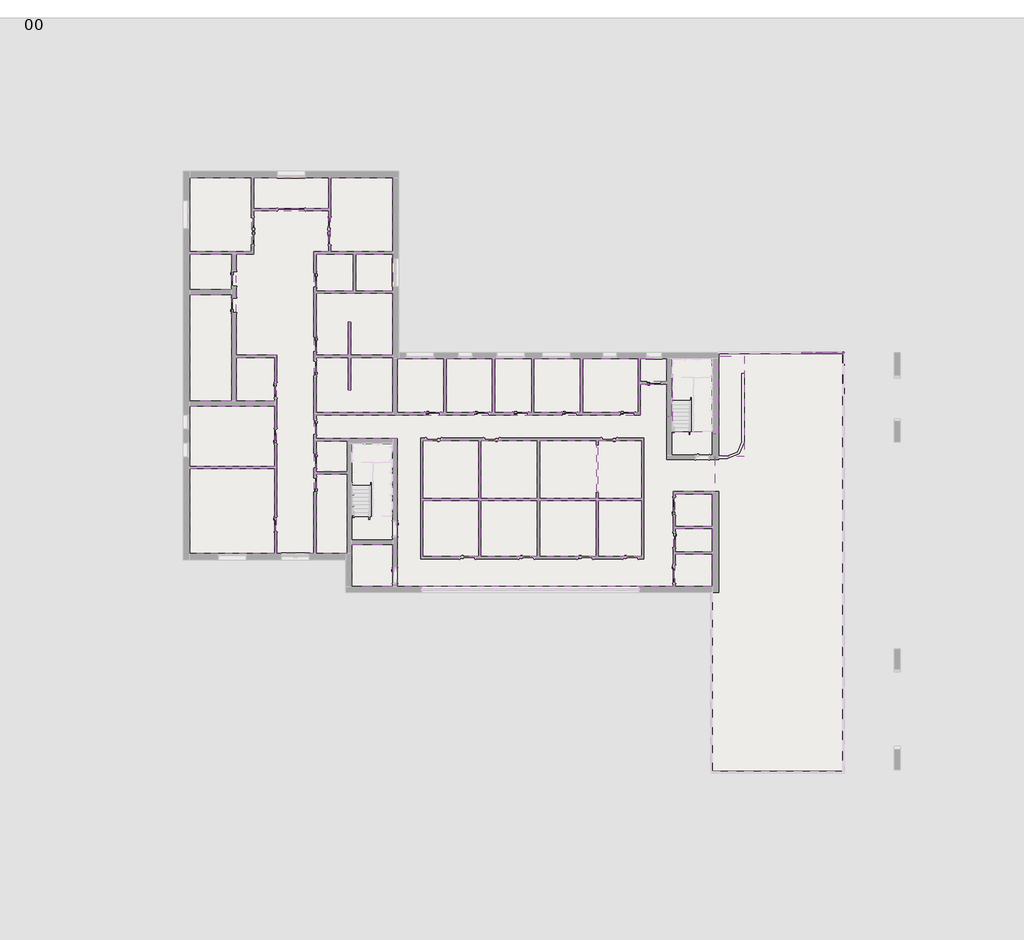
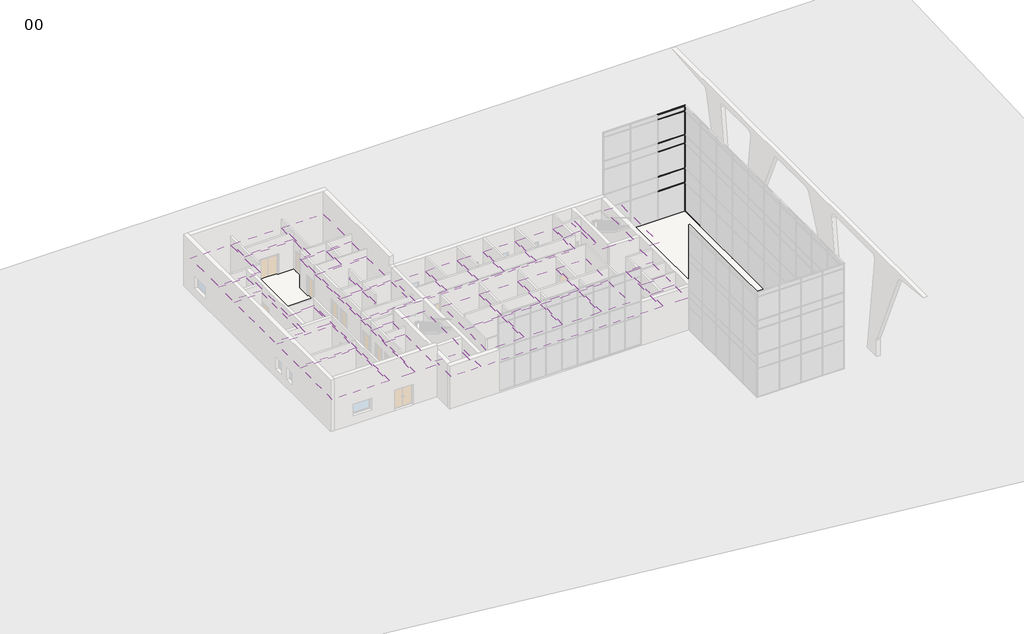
# One storey, part 8 of 11: 36 coverings, 21 members, 8 footings, 4 proxies, 1 slab.
"""IFC4 building model written with IfcOpenShell, lengths in millimetres."""

from ifc_helpers import new_model, si_unit, frame, origin, place, context, project, spatial, polyline, outline, extrude, faceted_brep, transform, mapped, element, save
from components import support_circular_support_bend_943144f1, rectangular_mullion_curtainwallmullion_rectangular_generic_15c16c91, rectangular_mullion_curtainwallmullion_rectangular_generic_83e55909, rectangular_mullion_curtainwallmullion_rectangular_generic_397fb318, rectangular_mullion_curtainwallmullion_rectangular_generic_0a5b04f7, rectangular_mullion_curtainwallmullion_rectangular_generic_0800385b, rectangular_mullion_curtainwallmullion_rectangular_generic_2e425acd, rectangular_mullion_curtainwallmullion_rectangular_generic_e7c47ca9, rectangular_mullion_curtainwallmullion_rectangular_generic_3bdb59d8, rectangular_mullion_curtainwallmullion_rectangular_generic_afb0b622, rectangular_mullion_curtainwallmullion_rectangular_generic_d47b8a9d

model = new_model("IFC4")

# Units and contexts
model_context = context("Model", 3, world=origin())
ifc_project = project(units=[si_unit("LENGTHUNIT", "METRE", prefix="MILLI")], contexts=[model_context])

# Site, building, storey
site = spatial("IfcSite", under=ifc_project)
building = spatial("IfcBuilding", under=site)
storey = spatial("IfcBuildingStorey", under=building, Name="00", Elevation=0.0)

# Proxies
placement = place(None, origin())
support_circular_support_bend_shape = support_circular_support_bend_943144f1(model_context)
element("IfcBuildingElementProxy", 1, Name="Support_ Circular : Support_Bend", ObjectType="Support_ Circular : Support_Bend", at=placement, inside=storey, context=model_context, shape_type="MappedRepresentation", body=[
    mapped(support_circular_support_bend_shape, transform((422426.7206883, -391834.0026386, 1050.0), x_axis=(1.0, 0.0, 0.0), y_axis=(0.0, 1.0, 0.0), z_axis=(0.0, 0.0, 1.0))),
])
element("IfcBuildingElementProxy", 2, Name="Support_ Circular : Support_Bend", ObjectType="Support_ Circular : Support_Bend", at=placement, inside=storey, context=model_context, shape_type="MappedRepresentation", body=[
    mapped(support_circular_support_bend_shape, transform((422506.7206883, -391150.1319314, 1384.3224243), x_axis=(0.0, 1.0, 0.0), y_axis=(-1.0, 0.0, 0.0), z_axis=(0.0, 0.0, 1.0))),
])
element("IfcBuildingElementProxy", 3, Name="Support_ Circular : Support_Bend", ObjectType="Support_ Circular : Support_Bend", at=placement, inside=storey, context=model_context, shape_type="MappedRepresentation", body=[
    mapped(support_circular_support_bend_shape, transform((422506.7206883, -390406.2122145, 1830.6742544), x_axis=(0.0, 1.0, 0.0), y_axis=(-1.0, 0.0, 0.0), z_axis=(0.0, 0.0, 1.0))),
])
element("IfcBuildingElementProxy", 4, Name="Support_ Circular : Support_Bend", ObjectType="Support_ Circular : Support_Bend", at=placement, inside=storey, context=model_context, shape_type="MappedRepresentation", body=[
    mapped(support_circular_support_bend_shape, transform((422426.7206883, -391834.0026386, 1050.0), x_axis=(1.0, 0.0, 0.0), y_axis=(0.0, 1.0, 0.0), z_axis=(0.0, 0.0, 1.0))),
])

# Coverings
element("IfcCovering", 5, ObjectType="Ceiling_CompoundGeneric", at=placement, inside=storey, context=model_context, shape_type="SweptSolid", body=[
    extrude(outline(polyline([(443102.3206883, -385283.1646258), (443102.3206883, -383693.3886483), (443122.3206883, -383693.3886483), (443122.3206883, -386275.0026386), (445738.3206883, -386275.0026386), (445738.3206883, -386408.0026386), (446140.3206883, -386408.0026386), (446140.3206883, -381395.0026386), (447790.3206883, -381395.0026386), (447790.3206883, -387908.0026386), (445893.3206883, -387908.0026386), (445893.3206883, -390178.0026386), (443188.3206883, -390178.0026386), (443188.3206883, -396328.0026386), (425322.3206883, -396328.0026386), (425322.3206883, -386739.0026386), (422221.3206883, -386739.0026386), (420062.3206883, -386739.0026386), (420062.3206883, -385199.0026386), (425167.3206883, -385199.0026386), (441072.3206883, -385199.0026386), (441072.3206883, -383200.0026386), (442792.3206883, -383200.0026386), (442792.3206883, -385283.1646258), (443102.3206883, -385283.1646258)]), holes=[polyline([(426822.3206883, -394544.0026386), (441292.3206883, -394544.0026386), (441292.3206883, -386699.0026386), (426822.3206883, -386699.0026386), (426822.3206883, -394544.0026386)])]), frame((0.0, 0.0, 3000.0), z_axis=(0.0, 0.0, 1.0), x_axis=(1.0, 0.0, 0.0)), (0.0, 0.0, 1.0), 52.0),
])
element("IfcCovering", 6, ObjectType="Ceiling_CompoundGeneric", at=placement, inside=storey, context=model_context, shape_type="SweptSolid", body=[
    extrude(outline(polyline([(411860.3206883, -374614.0026386), (411860.3206883, -369815.0026386), (415860.3206883, -369815.0026386), (415860.3206883, -374614.0026386), (411860.3206883, -374614.0026386)])), frame((0.0, 0.0, 3000.0), z_axis=(0.0, 0.0, 1.0), x_axis=(1.0, 0.0, 0.0)), (0.0, 0.0, 1.0), 52.0),
])
element("IfcCovering", 7, ObjectType="Ceiling_CompoundGeneric", at=placement, inside=storey, context=model_context, shape_type="SweptSolid", body=[
    extrude(outline(polyline([(416010.3206883, -369815.0026386), (420862.3206883, -369815.0026386), (420862.3206883, -371815.0026386), (416010.3206883, -371815.0026386), (416010.3206883, -369815.0026386)])), frame((0.0, 0.0, 3000.0), z_axis=(0.0, 0.0, 1.0), x_axis=(1.0, 0.0, 0.0)), (0.0, 0.0, 1.0), 52.0),
])
element("IfcCovering", 8, ObjectType="Ceiling_CompoundGeneric", at=placement, inside=storey, context=model_context, shape_type="SweptSolid", body=[
    extrude(outline(polyline([(421012.3206883, -369815.0026386), (425012.3206883, -369815.0026386), (425012.3206883, -374614.0026386), (421012.3206883, -374614.0026386), (421012.3206883, -369815.0026386)])), frame((0.0, 0.0, 3000.0), z_axis=(0.0, 0.0, 1.0), x_axis=(1.0, 0.0, 0.0)), (0.0, 0.0, 1.0), 52.0),
])
element("IfcCovering", 9, ObjectType="Ceiling_CompoundGeneric", at=placement, inside=storey, context=model_context, shape_type="SweptSolid", body=[
    extrude(outline(polyline([(425012.3206883, -374764.0026386), (425012.3206883, -377164.0026386), (422612.3206883, -377164.0026386), (422612.3206883, -374764.0026386), (425012.3206883, -374764.0026386)])), frame((0.0, 0.0, 3000.0), z_axis=(0.0, 0.0, 1.0), x_axis=(1.0, 0.0, 0.0)), (0.0, 0.0, 1.0), 52.0),
])
element("IfcCovering", 10, ObjectType="Ceiling_CompoundGeneric", at=placement, inside=storey, context=model_context, shape_type="SweptSolid", body=[
    extrude(outline(polyline([(422462.3206883, -377164.0026386), (420062.3206883, -377164.0026386), (420062.3206883, -374764.0026386), (422462.3206883, -374764.0026386), (422462.3206883, -377164.0026386)])), frame((0.0, 0.0, 3000.0), z_axis=(0.0, 0.0, 1.0), x_axis=(1.0, 0.0, 0.0)), (0.0, 0.0, 1.0), 52.0),
])
element("IfcCovering", 11, ObjectType="Ceiling_CompoundGeneric", at=placement, inside=storey, context=model_context, shape_type="SweptSolid", body=[
    extrude(outline(polyline([(425012.3206883, -377314.0026386), (425012.3206883, -381320.0026386), (422296.3206883, -381320.0026386), (422296.3206883, -379195.0026386), (422146.3206883, -379195.0026386), (422146.3206883, -381320.0026386), (420062.3206883, -381320.0026386), (420062.3206883, -377314.0026386), (425012.3206883, -377314.0026386)])), frame((0.0, 0.0, 3000.0), z_axis=(0.0, 0.0, 1.0), x_axis=(1.0, 0.0, 0.0)), (0.0, 0.0, 1.0), 52.0),
])
element("IfcCovering", 12, ObjectType="Ceiling_CompoundGeneric", at=placement, inside=storey, context=model_context, shape_type="SweptSolid", body=[
    extrude(outline(polyline([(425012.3206883, -381470.0026386), (425012.3206883, -385049.0026386), (420062.3206883, -385049.0026386), (420062.3206883, -381470.0026386), (422146.3206883, -381470.0026386), (422146.3206883, -383595.0026386), (422296.3206883, -383595.0026386), (422296.3206883, -381470.0026386), (425012.3206883, -381470.0026386)])), frame((0.0, 0.0, 3000.0), z_axis=(0.0, 0.0, 1.0), x_axis=(1.0, 0.0, 0.0)), (0.0, 0.0, 1.0), 52.0),
])
element("IfcCovering", 13, ObjectType="Ceiling_CompoundGeneric", at=placement, inside=storey, context=model_context, shape_type="SweptSolid", body=[
    extrude(outline(polyline([(420062.3206883, -386889.0026386), (422066.3206883, -386889.0026386), (422066.3206883, -388889.0026386), (420062.3206883, -388889.0026386), (420062.3206883, -386889.0026386)])), frame((0.0, 0.0, 3000.0), z_axis=(0.0, 0.0, 1.0), x_axis=(1.0, 0.0, 0.0)), (0.0, 0.0, 1.0), 52.0),
])
element("IfcCovering", 14, ObjectType="Ceiling_CompoundGeneric", at=placement, inside=storey, context=model_context, shape_type="SweptSolid", body=[
    extrude(outline(polyline([(422066.3206883, -394194.0026386), (420062.3206883, -394194.0026386), (420062.3206883, -389039.0026386), (422066.3206883, -389039.0026386), (422066.3206883, -394194.0026386)])), frame((0.0, 0.0, 3000.0), z_axis=(0.0, 0.0, 1.0), x_axis=(1.0, 0.0, 0.0)), (0.0, 0.0, 1.0), 52.0),
])
element("IfcCovering", 15, ObjectType="Ceiling_CompoundGeneric", at=placement, inside=storey, context=model_context, shape_type="SweptSolid", body=[
    extrude(outline(polyline([(411860.3206883, -394194.0026386), (411860.3206883, -388694.0026386), (417360.3206883, -388694.0026386), (417360.3206883, -394194.0026386), (411860.3206883, -394194.0026386)])), frame((0.0, 0.0, 3000.0), z_axis=(0.0, 0.0, 1.0), x_axis=(1.0, 0.0, 0.0)), (0.0, 0.0, 1.0), 52.0),
])
element("IfcCovering", 16, ObjectType="Ceiling_CompoundGeneric", at=placement, inside=storey, context=model_context, shape_type="SweptSolid", body=[
    extrude(outline(polyline([(411860.3206883, -388544.0026386), (411860.3206883, -384624.0026386), (417360.3206883, -384624.0026386), (417360.3206883, -388544.0026386), (411860.3206883, -388544.0026386)])), frame((0.0, 0.0, 3000.0), z_axis=(0.0, 0.0, 1.0), x_axis=(1.0, 0.0, 0.0)), (0.0, 0.0, 1.0), 52.0),
])
element("IfcCovering", 17, ObjectType="Ceiling_CompoundGeneric", at=placement, inside=storey, context=model_context, shape_type="SweptSolid", body=[
    extrude(outline(polyline([(411860.3206883, -384314.0026386), (411860.3206883, -377394.0026386), (414580.3206883, -377394.0026386), (414580.3206883, -384314.0026386), (411860.3206883, -384314.0026386)])), frame((0.0, 0.0, 3000.0), z_axis=(0.0, 0.0, 1.0), x_axis=(1.0, 0.0, 0.0)), (0.0, 0.0, 1.0), 52.0),
])
element("IfcCovering", 18, ObjectType="Ceiling_CompoundGeneric", at=placement, inside=storey, context=model_context, shape_type="SweptSolid", body=[
    extrude(outline(polyline([(414890.3206883, -381470.0026386), (417360.3206883, -381470.0026386), (417360.3206883, -384314.0026386), (414890.3206883, -384314.0026386), (414890.3206883, -381470.0026386)])), frame((0.0, 0.0, 3000.0), z_axis=(0.0, 0.0, 1.0), x_axis=(1.0, 0.0, 0.0)), (0.0, 0.0, 1.0), 52.0),
])
element("IfcCovering", 19, ObjectType="Ceiling_CompoundGeneric", at=placement, inside=storey, context=model_context, shape_type="SweptSolid", body=[
    extrude(outline(polyline([(414580.3206883, -377084.0026386), (411860.3206883, -377084.0026386), (411860.3206883, -374764.0026386), (414580.3206883, -374764.0026386), (414580.3206883, -377084.0026386)])), frame((0.0, 0.0, 3000.0), z_axis=(0.0, 0.0, 1.0), x_axis=(1.0, 0.0, 0.0)), (0.0, 0.0, 1.0), 52.0),
])
element("IfcCovering", 20, ObjectType="Ceiling_CompoundGeneric", at=placement, inside=storey, context=model_context, shape_type="SweptSolid", body=[
    extrude(outline(polyline([(411860.3206883, -374614.0026386), (411860.3206883, -369815.0026386), (415860.3206883, -369815.0026386), (415860.3206883, -374614.0026386), (411860.3206883, -374614.0026386)])), frame((0.0, 0.0, 3000.0), z_axis=(0.0, 0.0, 1.0), x_axis=(1.0, 0.0, 0.0)), (0.0, 0.0, 1.0), 52.0),
])
element("IfcCovering", 21, ObjectType="Ceiling_CompoundGeneric", at=placement, inside=storey, context=model_context, shape_type="SweptSolid", body=[
    extrude(outline(polyline([(419912.3206883, -386814.0026386), (419912.3206883, -394194.0026386), (417510.3206883, -394194.0026386), (417510.3206883, -381320.0026386), (414890.3206883, -381320.0026386), (414890.3206883, -374764.0026386), (416010.3206883, -374764.0026386), (416010.3206883, -371965.0026386), (420862.3206883, -371965.0026386), (420862.3206883, -374614.0026386), (419912.3206883, -374614.0026386), (419912.3206883, -377239.0026386), (419912.3206883, -385124.0026386), (419912.3206883, -386814.0026386)])), frame((0.0, 0.0, 3000.0), z_axis=(0.0, 0.0, 1.0), x_axis=(1.0, 0.0, 0.0)), (0.0, 0.0, 1.0), 52.0),
])
element("IfcCovering", 22, ObjectType="Ceiling_CompoundGeneric", at=placement, inside=storey, context=model_context, shape_type="SweptSolid", body=[
    extrude(outline(polyline([(425012.3206883, -396328.0026386), (422376.3206883, -396328.0026386), (422376.3206883, -394395.0026386), (422376.3206883, -393609.0026386), (425012.3206883, -393609.0026386), (425012.3206883, -396328.0026386)])), frame((0.0, 0.0, 3000.0), z_axis=(0.0, 0.0, 1.0), x_axis=(1.0, 0.0, 0.0)), (0.0, 0.0, 1.0), 52.0),
])
element("IfcCovering", 23, ObjectType="Ceiling_CompoundGeneric", at=placement, inside=storey, context=model_context, shape_type="SweptSolid", body=[
    extrude(outline(polyline([(426972.3206883, -394394.0026386), (426972.3206883, -390768.0026386), (430578.3206883, -390768.0026386), (430578.3206883, -394394.0026386), (426972.3206883, -394394.0026386)])), frame((0.0, 0.0, 3000.0), z_axis=(0.0, 0.0, 1.0), x_axis=(1.0, 0.0, 0.0)), (0.0, 0.0, 1.0), 52.0),
])
element("IfcCovering", 24, ObjectType="Ceiling_CompoundGeneric", at=placement, inside=storey, context=model_context, shape_type="SweptSolid", body=[
    extrude(outline(polyline([(434388.3206883, -394394.0026386), (430728.3206883, -394394.0026386), (430728.3206883, -390768.0026386), (434388.3206883, -390768.0026386), (434388.3206883, -394394.0026386)])), frame((0.0, 0.0, 3000.0), z_axis=(0.0, 0.0, 1.0), x_axis=(1.0, 0.0, 0.0)), (0.0, 0.0, 1.0), 52.0),
])
element("IfcCovering", 25, ObjectType="Ceiling_CompoundGeneric", at=placement, inside=storey, context=model_context, shape_type="SweptSolid", body=[
    extrude(outline(polyline([(438198.3206883, -394394.0026386), (434538.3206883, -394394.0026386), (434538.3206883, -390768.0026386), (438198.3206883, -390768.0026386), (438198.3206883, -394394.0026386)])), frame((0.0, 0.0, 3000.0), z_axis=(0.0, 0.0, 1.0), x_axis=(1.0, 0.0, 0.0)), (0.0, 0.0, 1.0), 52.0),
])
element("IfcCovering", 26, ObjectType="Ceiling_CompoundGeneric", at=placement, inside=storey, context=model_context, shape_type="SweptSolid", body=[
    extrude(outline(polyline([(441142.3206883, -394394.0026386), (438348.3206883, -394394.0026386), (438348.3206883, -390768.0026386), (441142.3206883, -390768.0026386), (441142.3206883, -394394.0026386)])), frame((0.0, 0.0, 3000.0), z_axis=(0.0, 0.0, 1.0), x_axis=(1.0, 0.0, 0.0)), (0.0, 0.0, 1.0), 52.0),
])
element("IfcCovering", 27, ObjectType="Ceiling_CompoundGeneric", at=placement, inside=storey, context=model_context, shape_type="SweptSolid", body=[
    extrude(outline(polyline([(438348.3206883, -390618.0026386), (438348.3206883, -386849.0026386), (441142.3206883, -386849.0026386), (441142.3206883, -390618.0026386), (438348.3206883, -390618.0026386)])), frame((0.0, 0.0, 3000.0), z_axis=(0.0, 0.0, 1.0), x_axis=(1.0, 0.0, 0.0)), (0.0, 0.0, 1.0), 52.0),
])
element("IfcCovering", 28, ObjectType="Ceiling_CompoundGeneric", at=placement, inside=storey, context=model_context, shape_type="SweptSolid", body=[
    extrude(outline(polyline([(434538.3206883, -390618.0026386), (434538.3206883, -386849.0026386), (438198.3206883, -386849.0026386), (438198.3206883, -390618.0026386), (434538.3206883, -390618.0026386)])), frame((0.0, 0.0, 3000.0), z_axis=(0.0, 0.0, 1.0), x_axis=(1.0, 0.0, 0.0)), (0.0, 0.0, 1.0), 52.0),
])
element("IfcCovering", 29, ObjectType="Ceiling_CompoundGeneric", at=placement, inside=storey, context=model_context, shape_type="SweptSolid", body=[
    extrude(outline(polyline([(430728.3206883, -390618.0026386), (430728.3206883, -386849.0026386), (434388.3206883, -386849.0026386), (434388.3206883, -390618.0026386), (430728.3206883, -390618.0026386)])), frame((0.0, 0.0, 3000.0), z_axis=(0.0, 0.0, 1.0), x_axis=(1.0, 0.0, 0.0)), (0.0, 0.0, 1.0), 52.0),
])
element("IfcCovering", 30, ObjectType="Ceiling_CompoundGeneric", at=placement, inside=storey, context=model_context, shape_type="SweptSolid", body=[
    extrude(outline(polyline([(426972.3206883, -386849.0026386), (430578.3206883, -386849.0026386), (430578.3206883, -390618.0026386), (426972.3206883, -390618.0026386), (426972.3206883, -386849.0026386)])), frame((0.0, 0.0, 3000.0), z_axis=(0.0, 0.0, 1.0), x_axis=(1.0, 0.0, 0.0)), (0.0, 0.0, 1.0), 52.0),
])
element("IfcCovering", 31, ObjectType="Ceiling_CompoundGeneric", at=placement, inside=storey, context=model_context, shape_type="SweptSolid", body=[
    extrude(outline(polyline([(445738.3206883, -394228.0026386), (445738.3206883, -396328.0026386), (443338.3206883, -396328.0026386), (443338.3206883, -394228.0026386), (445738.3206883, -394228.0026386)])), frame((0.0, 0.0, 3000.0), z_axis=(0.0, 0.0, 1.0), x_axis=(1.0, 0.0, 0.0)), (0.0, 0.0, 1.0), 52.0),
])
element("IfcCovering", 32, ObjectType="Ceiling_CompoundGeneric", at=placement, inside=storey, context=model_context, shape_type="SweptSolid", body=[
    extrude(outline(polyline([(445738.3206883, -392578.0026386), (445738.3206883, -394078.0026386), (443338.3206883, -394078.0026386), (443338.3206883, -392578.0026386), (445738.3206883, -392578.0026386)])), frame((0.0, 0.0, 3000.0), z_axis=(0.0, 0.0, 1.0), x_axis=(1.0, 0.0, 0.0)), (0.0, 0.0, 1.0), 52.0),
])
element("IfcCovering", 33, ObjectType="Ceiling_CompoundGeneric", at=placement, inside=storey, context=model_context, shape_type="SweptSolid", body=[
    extrude(outline(polyline([(445738.3206883, -390328.0026386), (445738.3206883, -392428.0026386), (443338.3206883, -392428.0026386), (443338.3206883, -390328.0026386), (445738.3206883, -390328.0026386)])), frame((0.0, 0.0, 3000.0), z_axis=(0.0, 0.0, 1.0), x_axis=(1.0, 0.0, 0.0)), (0.0, 0.0, 1.0), 52.0),
])
element("IfcCovering", 34, ObjectType="Ceiling_CompoundGeneric", at=placement, inside=storey, context=model_context, shape_type="SweptSolid", body=[
    extrude(outline(polyline([(443102.3206883, -383550.0026386), (443102.3206883, -381550.0026386), (443122.3206883, -381550.0026386), (443122.3206883, -383550.0026386), (443102.3206883, -383550.0026386)])), frame((0.0, 0.0, 3000.0), z_axis=(0.0, 0.0, 1.0), x_axis=(1.0, 0.0, 0.0)), (0.0, 0.0, 1.0), 52.0),
])
element("IfcCovering", 35, ObjectType="Ceiling_CompoundGeneric", at=placement, inside=storey, context=model_context, shape_type="SweptSolid", body=[
    extrude(outline(polyline([(441072.3206883, -381550.0026386), (442792.3206883, -381550.0026386), (442792.3206883, -383050.0026386), (441072.3206883, -383050.0026386), (441072.3206883, -381550.0026386)])), frame((0.0, 0.0, 3000.0), z_axis=(0.0, 0.0, 1.0), x_axis=(1.0, 0.0, 0.0)), (0.0, 0.0, 1.0), 52.0),
])
element("IfcCovering", 36, ObjectType="Ceiling_CompoundGeneric", at=placement, inside=storey, context=model_context, shape_type="SweptSolid", body=[
    extrude(outline(polyline([(437322.3206883, -381550.0026386), (440922.3206883, -381550.0026386), (440922.3206883, -385049.0026386), (437322.3206883, -385049.0026386), (437322.3206883, -381550.0026386)])), frame((0.0, 0.0, 3000.0), z_axis=(0.0, 0.0, 1.0), x_axis=(1.0, 0.0, 0.0)), (0.0, 0.0, 1.0), 52.0),
])
element("IfcCovering", 37, ObjectType="Ceiling_CompoundGeneric", at=placement, inside=storey, context=model_context, shape_type="SweptSolid", body=[
    extrude(outline(polyline([(434172.3206883, -381550.0026386), (437172.3206883, -381550.0026386), (437172.3206883, -385049.0026386), (434172.3206883, -385049.0026386), (434172.3206883, -381550.0026386)])), frame((0.0, 0.0, 3000.0), z_axis=(0.0, 0.0, 1.0), x_axis=(1.0, 0.0, 0.0)), (0.0, 0.0, 1.0), 52.0),
])
element("IfcCovering", 38, ObjectType="Ceiling_CompoundGeneric", at=placement, inside=storey, context=model_context, shape_type="SweptSolid", body=[
    extrude(outline(polyline([(431622.3206883, -381550.0026386), (434022.3206883, -381550.0026386), (434022.3206883, -385049.0026386), (431622.3206883, -385049.0026386), (431622.3206883, -381550.0026386)])), frame((0.0, 0.0, 3000.0), z_axis=(0.0, 0.0, 1.0), x_axis=(1.0, 0.0, 0.0)), (0.0, 0.0, 1.0), 52.0),
])
element("IfcCovering", 39, ObjectType="Ceiling_CompoundGeneric", at=placement, inside=storey, context=model_context, shape_type="SweptSolid", body=[
    extrude(outline(polyline([(428472.3206883, -381550.0026386), (431472.3206883, -381550.0026386), (431472.3206883, -385049.0026386), (428472.3206883, -385049.0026386), (428472.3206883, -381550.0026386)])), frame((0.0, 0.0, 3000.0), z_axis=(0.0, 0.0, 1.0), x_axis=(1.0, 0.0, 0.0)), (0.0, 0.0, 1.0), 52.0),
])
element("IfcCovering", 40, ObjectType="Ceiling_CompoundGeneric", at=placement, inside=storey, context=model_context, shape_type="SweptSolid", body=[
    extrude(outline(polyline([(425322.3206883, -385049.0026386), (425322.3206883, -381550.0026386), (428322.3206883, -381550.0026386), (428322.3206883, -385049.0026386), (425322.3206883, -385049.0026386)])), frame((0.0, 0.0, 3000.0), z_axis=(0.0, 0.0, 1.0), x_axis=(1.0, 0.0, 0.0)), (0.0, 0.0, 1.0), 52.0),
])

# Footings
element("IfcFooting", 41, ObjectType="StructuralFoundation_WallFoundation", at=placement, inside=storey, context=model_context, shape_type="Brep", body=[
    faceted_brep([(446396.5206883, -396071.8026386, -1000.0), (445482.1206883, -396071.8026386, -1000.0), (422632.5206883, -396071.8026386, -1000.0), (421718.1206883, -396071.8026386, -1000.0), (421718.1206883, -396986.2026386, -1000.0), (446396.5206883, -396986.2026386, -1000.0), (446396.5206883, -396986.2026386, -1304.8), (421718.1206883, -396986.2026386, -1304.8), (446396.5206883, -396071.8026386, -1304.8), (421718.1206883, -396071.8026386, -1304.8), (422632.5206883, -396071.8026386, -1304.8), (445482.1206883, -396071.8026386, -1304.8)], [[[0, 1, 2, 3, 4, 5]], [[6, 5, 4, 7]], [[8, 6, 7, 9, 10, 11]], [[0, 8, 11, 10, 9, 3, 2, 1]], [[4, 3, 9, 7]], [[0, 5, 6, 8]]]),
])
element("IfcFooting", 42, ObjectType="StructuralFoundation_WallFoundation", at=placement, inside=storey, context=model_context, shape_type="Brep", body=[
    faceted_brep([(422632.5206883, -393937.8026386, -1000.0), (421718.1206883, -393937.8026386, -1000.0), (421718.1206883, -394852.2026386, -1000.0), (421718.1206883, -396071.8026386, -1000.0), (422632.5206883, -396071.8026386, -1000.0), (421718.1206883, -393937.8026386, -1304.8), (421718.1206883, -394852.2026386, -1304.8), (421718.1206883, -396071.8026386, -1304.8), (422632.5206883, -393937.8026386, -1304.8), (422632.5206883, -396071.8026386, -1304.8)], [[[0, 1, 2, 3, 4]], [[1, 5, 6, 7, 3, 2]], [[5, 8, 9, 7, 6]], [[8, 0, 4, 9]], [[4, 3, 7, 9]], [[1, 0, 8, 5]]]),
])
element("IfcFooting", 43, ObjectType="StructuralFoundation_WallFoundation", at=placement, inside=storey, context=model_context, shape_type="Brep", body=[
    faceted_brep([(411202.1206883, -393937.8026386, -1000.0), (411202.1206883, -394852.2026386, -1000.0), (421718.1206883, -394852.2026386, -1000.0), (421718.1206883, -393937.8026386, -1000.0), (412116.5206883, -393937.8026386, -1000.0), (411202.1206883, -394852.2026386, -1304.8), (421718.1206883, -394852.2026386, -1304.8), (411202.1206883, -393937.8026386, -1304.8), (412116.5206883, -393937.8026386, -1304.8), (421718.1206883, -393937.8026386, -1304.8)], [[[0, 1, 2, 3, 4]], [[1, 5, 6, 2]], [[5, 7, 8, 9, 6]], [[7, 0, 4, 3, 9, 8]], [[3, 2, 6, 9]], [[1, 0, 7, 5]]]),
])
element("IfcFooting", 44, ObjectType="StructuralFoundation_WallFoundation", at=placement, inside=storey, context=model_context, shape_type="Brep", body=[
    faceted_brep([(412116.5206883, -369156.8026386, -1000.0), (411202.1206883, -369156.8026386, -1000.0), (411202.1206883, -393937.8026386, -1000.0), (412116.5206883, -393937.8026386, -1000.0), (412116.5206883, -370071.2026386, -1000.0), (411202.1206883, -369156.8026386, -1304.8), (411202.1206883, -393937.8026386, -1304.8), (412116.5206883, -369156.8026386, -1304.8), (412116.5206883, -370071.2026386, -1304.8), (412116.5206883, -393937.8026386, -1304.8)], [[[0, 1, 2, 3, 4]], [[1, 5, 6, 2]], [[5, 7, 8, 9, 6]], [[7, 0, 4, 3, 9, 8]], [[3, 2, 6, 9]], [[1, 0, 7, 5]]]),
])
element("IfcFooting", 45, ObjectType="StructuralFoundation_WallFoundation", at=placement, inside=storey, context=model_context, shape_type="Brep", body=[
    faceted_brep([(425670.5206883, -370071.2026386, -1000.0), (425670.5206883, -369156.8026386, -1000.0), (412116.5206883, -369156.8026386, -1000.0), (412116.5206883, -370071.2026386, -1000.0), (424756.1206883, -370071.2026386, -1000.0), (425670.5206883, -369156.8026386, -1304.8), (412116.5206883, -369156.8026386, -1304.8), (425670.5206883, -370071.2026386, -1304.8), (424756.1206883, -370071.2026386, -1304.8), (412116.5206883, -370071.2026386, -1304.8)], [[[0, 1, 2, 3, 4]], [[1, 5, 6, 2]], [[5, 7, 8, 9, 6]], [[7, 0, 4, 3, 9, 8]], [[3, 2, 6, 9]], [[1, 0, 7, 5]]]),
])
element("IfcFooting", 46, ObjectType="StructuralFoundation_WallFoundation", at=placement, inside=storey, context=model_context, shape_type="Brep", body=[
    faceted_brep([(424756.1206883, -381806.2026386, -1000.0), (425670.5206883, -381806.2026386, -1000.0), (425670.5206883, -380891.8026386, -1000.0), (425670.5206883, -370071.2026386, -1000.0), (424756.1206883, -370071.2026386, -1000.0), (425670.5206883, -381806.2026386, -1304.8), (425670.5206883, -380891.8026386, -1304.8), (425670.5206883, -370071.2026386, -1304.8), (424756.1206883, -381806.2026386, -1304.8), (424756.1206883, -370071.2026386, -1304.8)], [[[0, 1, 2, 3, 4]], [[1, 5, 6, 7, 3, 2]], [[5, 8, 9, 7, 6]], [[8, 0, 4, 9]], [[4, 3, 7, 9]], [[1, 0, 8, 5]]]),
])
element("IfcFooting", 47, ObjectType="StructuralFoundation_WallFoundation", at=placement, inside=storey, context=model_context, shape_type="Brep", body=[
    faceted_brep([(446396.5206883, -381806.2026386, -1000.0), (446396.5206883, -380891.8026386, -1000.0), (425670.5206883, -380891.8026386, -1000.0), (425670.5206883, -381806.2026386, -1000.0), (445482.1206883, -381806.2026386, -1000.0), (446396.5206883, -380891.8026386, -1304.8), (425670.5206883, -380891.8026386, -1304.8), (446396.5206883, -381806.2026386, -1304.8), (445482.1206883, -381806.2026386, -1304.8), (425670.5206883, -381806.2026386, -1304.8)], [[[0, 1, 2, 3, 4]], [[1, 5, 6, 2]], [[5, 7, 8, 9, 6]], [[7, 0, 4, 3, 9, 8]], [[3, 2, 6, 9]], [[1, 0, 7, 5]]]),
])
element("IfcFooting", 48, ObjectType="StructuralFoundation_WallFoundation", at=placement, inside=storey, context=model_context, shape_type="SweptSolid", body=[
    extrude(outline(polyline([(446396.5206883, -396071.8026386), (445482.1206883, -396071.8026386), (445482.1206883, -381806.2026386), (446396.5206883, -381806.2026386), (446396.5206883, -396071.8026386)])), frame((0.0, 0.0, -1304.8), z_axis=(0.0, 0.0, 1.0), x_axis=(1.0, 0.0, 0.0)), (0.0, 0.0, 1.0), 304.8),
])

# Members
rectangular_mullion_curtainwallmullion_rectangular_generic_shape = rectangular_mullion_curtainwallmullion_rectangular_generic_15c16c91(model_context)
element("IfcMember", 49, ObjectType="Rectangular Mullion : CurtainWallMullion_Rectangular_Generic", at=placement, inside=storey, context=model_context, shape_type="MappedRepresentation", body=[
    mapped(rectangular_mullion_curtainwallmullion_rectangular_generic_shape, transform((454246.3206883, -381170.0026386, 10486.7), x_axis=(1.0, 0.0, 0.0), y_axis=(0.0, -1.0, 0.0), z_axis=(0.0, 0.0, -1.0))),
])
element("IfcMember", 50, ObjectType="Rectangular Mullion : CurtainWallMullion_Rectangular_Generic", at=placement, inside=storey, context=model_context, shape_type="MappedRepresentation", body=[
    mapped(rectangular_mullion_curtainwallmullion_rectangular_generic_shape, transform((454246.3206883, -381170.0026386, 10950.0), x_axis=(0.0, 1.0, 0.0), y_axis=(-1.0, 0.0, 0.0), z_axis=(0.0, 0.0, 1.0))),
])
rectangular_mullion_curtainwallmullion_rectangular_generic_2_shape = rectangular_mullion_curtainwallmullion_rectangular_generic_83e55909(model_context)
element("IfcMember", 51, ObjectType="Rectangular Mullion : CurtainWallMullion_Rectangular_Generic", at=placement, inside=storey, context=model_context, shape_type="MappedRepresentation", body=[
    mapped(rectangular_mullion_curtainwallmullion_rectangular_generic_2_shape, transform((454246.3206883, -381170.0026386, 10486.7), x_axis=(0.0, 1.0, 0.0), y_axis=(-1.0, 0.0, 0.0), z_axis=(0.0, 0.0, 1.0))),
])
element("IfcMember", 52, ObjectType="Rectangular Mullion : CurtainWallMullion_Rectangular_Generic", at=placement, inside=storey, context=model_context, shape_type="MappedRepresentation", body=[
    mapped(rectangular_mullion_curtainwallmullion_rectangular_generic_2_shape, transform((454246.3206883, -381170.0026386, 8000.0), x_axis=(1.0, 0.0, 0.0), y_axis=(0.0, -1.0, 0.0), z_axis=(0.0, 0.0, -1.0))),
])
rectangular_mullion_curtainwallmullion_rectangular_generic_3_shape = rectangular_mullion_curtainwallmullion_rectangular_generic_397fb318(model_context)
element("IfcMember", 53, ObjectType="Rectangular Mullion : CurtainWallMullion_Rectangular_Generic", at=placement, inside=storey, context=model_context, shape_type="MappedRepresentation", body=[
    mapped(rectangular_mullion_curtainwallmullion_rectangular_generic_3_shape, transform((454246.3206883, -381170.0026386, 2425.0), x_axis=(0.0, 1.0, 0.0), y_axis=(-1.0, 0.0, 0.0), z_axis=(0.0, 0.0, 1.0))),
])
element("IfcMember", 54, ObjectType="Rectangular Mullion : CurtainWallMullion_Rectangular_Generic", at=placement, inside=storey, context=model_context, shape_type="MappedRepresentation", body=[
    mapped(rectangular_mullion_curtainwallmullion_rectangular_generic_3_shape, transform((454246.3206883, -381170.0026386, 50.0), x_axis=(1.0, 0.0, 0.0), y_axis=(0.0, -1.0, 0.0), z_axis=(0.0, 0.0, -1.0))),
])
rectangular_mullion_curtainwallmullion_rectangular_generic_4_shape = rectangular_mullion_curtainwallmullion_rectangular_generic_0a5b04f7(model_context)
element("IfcMember", 55, ObjectType="Rectangular Mullion : CurtainWallMullion_Rectangular_Generic", at=placement, inside=storey, context=model_context, shape_type="MappedRepresentation", body=[
    mapped(rectangular_mullion_curtainwallmullion_rectangular_generic_4_shape, transform((454246.3206883, -381170.0026386, 11000.0), x_axis=(0.0, 0.0, 1.0), y_axis=(0.0, -1.0, 0.0), z_axis=(1.0, 0.0, 0.0))),
])
rectangular_mullion_curtainwallmullion_rectangular_generic_5_shape = rectangular_mullion_curtainwallmullion_rectangular_generic_0800385b(model_context)
element("IfcMember", 56, ObjectType="Rectangular Mullion : CurtainWallMullion_Rectangular_Generic", at=placement, inside=storey, context=model_context, shape_type="MappedRepresentation", body=[
    mapped(rectangular_mullion_curtainwallmullion_rectangular_generic_5_shape, transform((454246.3206883, -381170.0026386, 0.0), x_axis=(0.0, 0.0, -1.0), y_axis=(-1.0, 0.0, 0.0), z_axis=(0.0, 1.0, 0.0))),
])
rectangular_mullion_curtainwallmullion_rectangular_generic_6_shape = rectangular_mullion_curtainwallmullion_rectangular_generic_2e425acd(model_context)
element("IfcMember", 57, ObjectType="Rectangular Mullion : CurtainWallMullion_Rectangular_Generic", at=placement, inside=storey, context=model_context, shape_type="MappedRepresentation", body=[
    mapped(rectangular_mullion_curtainwallmullion_rectangular_generic_6_shape, transform((454196.3206883, -381170.0026386, 4500.0), x_axis=(0.0, 0.0, 1.0), y_axis=(0.0, -1.0, 0.0), z_axis=(1.0, 0.0, 0.0))),
])
element("IfcMember", 58, ObjectType="Rectangular Mullion : CurtainWallMullion_Rectangular_Generic", at=placement, inside=storey, context=model_context, shape_type="MappedRepresentation", body=[
    mapped(rectangular_mullion_curtainwallmullion_rectangular_generic_6_shape, transform((454196.3206883, -381170.0026386, 7100.0), x_axis=(0.0, 0.0, 1.0), y_axis=(0.0, -1.0, 0.0), z_axis=(1.0, 0.0, 0.0))),
])
element("IfcMember", 59, ObjectType="Rectangular Mullion : CurtainWallMullion_Rectangular_Generic", at=placement, inside=storey, context=model_context, shape_type="MappedRepresentation", body=[
    mapped(rectangular_mullion_curtainwallmullion_rectangular_generic_6_shape, transform((454196.3206883, -381170.0026386, 10486.7), x_axis=(0.0, 0.0, 1.0), y_axis=(0.0, -1.0, 0.0), z_axis=(1.0, 0.0, 0.0))),
])
element("IfcMember", 60, ObjectType="Rectangular Mullion : CurtainWallMullion_Rectangular_Generic", at=placement, inside=storey, context=model_context, shape_type="MappedRepresentation", body=[
    mapped(rectangular_mullion_curtainwallmullion_rectangular_generic_6_shape, transform((454196.3206883, -381170.0026386, 8000.0), x_axis=(0.0, 0.0, 1.0), y_axis=(0.0, -1.0, 0.0), z_axis=(1.0, 0.0, 0.0))),
])
element("IfcMember", 61, ObjectType="Rectangular Mullion : CurtainWallMullion_Rectangular_Generic", at=placement, inside=storey, context=model_context, shape_type="MappedRepresentation", body=[
    mapped(rectangular_mullion_curtainwallmullion_rectangular_generic_6_shape, transform((454196.3206883, -381170.0026386, 3000.0), x_axis=(0.0, 0.0, 1.0), y_axis=(0.0, -1.0, 0.0), z_axis=(1.0, 0.0, 0.0))),
])
rectangular_mullion_curtainwallmullion_rectangular_generic_7_shape = rectangular_mullion_curtainwallmullion_rectangular_generic_e7c47ca9(model_context)
element("IfcMember", 62, ObjectType="Rectangular Mullion : CurtainWallMullion_Rectangular_Generic", at=placement, inside=storey, context=model_context, shape_type="MappedRepresentation", body=[
    mapped(rectangular_mullion_curtainwallmullion_rectangular_generic_7_shape, transform((454246.3206883, -381170.0026386, 4500.0), x_axis=(1.0, 0.0, 0.0), y_axis=(0.0, -1.0, 0.0), z_axis=(0.0, 0.0, -1.0))),
])
element("IfcMember", 63, ObjectType="Rectangular Mullion : CurtainWallMullion_Rectangular_Generic", at=placement, inside=storey, context=model_context, shape_type="MappedRepresentation", body=[
    mapped(rectangular_mullion_curtainwallmullion_rectangular_generic_7_shape, transform((454246.3206883, -381170.0026386, 7100.0), x_axis=(0.0, 1.0, 0.0), y_axis=(-1.0, 0.0, 0.0), z_axis=(0.0, 0.0, 1.0))),
])
rectangular_mullion_curtainwallmullion_rectangular_generic_8_shape = rectangular_mullion_curtainwallmullion_rectangular_generic_3bdb59d8(model_context)
element("IfcMember", 64, ObjectType="Rectangular Mullion : CurtainWallMullion_Rectangular_Generic", at=placement, inside=storey, context=model_context, shape_type="MappedRepresentation", body=[
    mapped(rectangular_mullion_curtainwallmullion_rectangular_generic_8_shape, transform((454246.3206883, -381170.0026386, 3000.0), x_axis=(1.0, 0.0, 0.0), y_axis=(0.0, -1.0, 0.0), z_axis=(0.0, 0.0, -1.0))),
])
element("IfcMember", 65, ObjectType="Rectangular Mullion : CurtainWallMullion_Rectangular_Generic", at=placement, inside=storey, context=model_context, shape_type="MappedRepresentation", body=[
    mapped(rectangular_mullion_curtainwallmullion_rectangular_generic_8_shape, transform((454246.3206883, -381170.0026386, 4500.0), x_axis=(0.0, 1.0, 0.0), y_axis=(-1.0, 0.0, 0.0), z_axis=(0.0, 0.0, 1.0))),
])
rectangular_mullion_curtainwallmullion_rectangular_generic_9_shape = rectangular_mullion_curtainwallmullion_rectangular_generic_afb0b622(model_context)
element("IfcMember", 66, ObjectType="Rectangular Mullion : CurtainWallMullion_Rectangular_Generic", at=placement, inside=storey, context=model_context, shape_type="MappedRepresentation", body=[
    mapped(rectangular_mullion_curtainwallmullion_rectangular_generic_9_shape, transform((454246.3206883, -381170.0026386, 7100.0), x_axis=(1.0, 0.0, 0.0), y_axis=(0.0, -1.0, 0.0), z_axis=(0.0, 0.0, -1.0))),
])
element("IfcMember", 67, ObjectType="Rectangular Mullion : CurtainWallMullion_Rectangular_Generic", at=placement, inside=storey, context=model_context, shape_type="MappedRepresentation", body=[
    mapped(rectangular_mullion_curtainwallmullion_rectangular_generic_9_shape, transform((454246.3206883, -381170.0026386, 8000.0), x_axis=(0.0, 1.0, 0.0), y_axis=(-1.0, 0.0, 0.0), z_axis=(0.0, 0.0, 1.0))),
])
rectangular_mullion_curtainwallmullion_rectangular_generic_10_shape = rectangular_mullion_curtainwallmullion_rectangular_generic_d47b8a9d(model_context)
element("IfcMember", 68, ObjectType="Rectangular Mullion : CurtainWallMullion_Rectangular_Generic", at=placement, inside=storey, context=model_context, shape_type="MappedRepresentation", body=[
    mapped(rectangular_mullion_curtainwallmullion_rectangular_generic_10_shape, transform((454246.3206883, -381170.0026386, 2425.0), x_axis=(1.0, 0.0, 0.0), y_axis=(0.0, -1.0, 0.0), z_axis=(0.0, 0.0, -1.0))),
])
element("IfcMember", 69, ObjectType="Rectangular Mullion : CurtainWallMullion_Rectangular_Generic", at=placement, inside=storey, context=model_context, shape_type="MappedRepresentation", body=[
    mapped(rectangular_mullion_curtainwallmullion_rectangular_generic_10_shape, transform((454246.3206883, -381170.0026386, 3000.0), x_axis=(0.0, 1.0, 0.0), y_axis=(-1.0, 0.0, 0.0), z_axis=(0.0, 0.0, 1.0))),
])

# Slab
element("IfcSlab", 70, ObjectType="Floor_WSUK_Bearing", at=placement, inside=storey, context=model_context, shape_type="SweptSolid", body=[
    extrude(outline(polyline([(425092.3206883, -369735.0026386), (425092.3206883, -381470.0026386), (445818.3206883, -381470.0026386), (445818.3206883, -388030.0026386), (446140.3206883, -388030.0026386), (446140.3206883, -381170.0026386), (454246.3206883, -381170.0026386), (454246.3206883, -408366.0026386), (445668.3206883, -408366.0026386), (445668.3206883, -396718.0026386), (446140.3206883, -396718.0026386), (446140.3206883, -390178.0026386), (445818.3206883, -390178.0026386), (445818.3206883, -396408.0026386), (422296.3206883, -396408.0026386), (422296.3206883, -394274.0026386), (411780.3206883, -394274.0026386), (411780.3206883, -369735.0026386), (425092.3206883, -369735.0026386)])), frame((0.0, 0.0, -602.0), z_axis=(0.0, 0.0, 1.0), x_axis=(1.0, 0.0, 0.0)), (0.0, 0.0, 1.0), 602.0),
])

save(model, "model.ifc")
